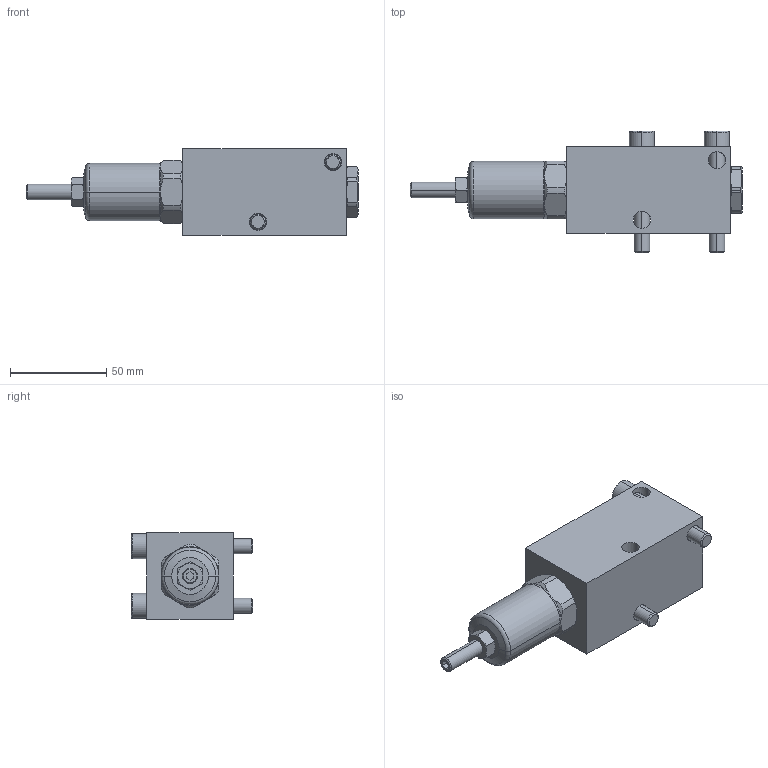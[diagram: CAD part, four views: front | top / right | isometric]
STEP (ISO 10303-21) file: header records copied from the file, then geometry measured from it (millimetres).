
FILE_DESCRIPTION(/* description */ (''),/* implementation_level */ '2;1');
FILE_NAME(/* name */ 'BGM022-A.stp',/* time_stamp */ '2024-10-24T09:27:25+08:00',/* author */ (''),/* organization */ (''),/* preprocessor_version */ 'ST-DEVELOPER v16.7',/* originating_system */ 'SIEMENS PLM Software NX 12.0',/* authorisation */ '');
FILE_SCHEMA (('AP203_CONFIGURATION_CONTROLLED_3D_DESIGN_OF_MECHANICAL_PARTS_AND_ASSEMBLIES_MIM_LF { 1 0 10303 403 2 1 2}'));
Length unit declared in the file: millimetre
Products named in the file (5): BGM022-A-4; BGM022-A-2; BGM022-A-1; BGM022-A-3; BMA20x0-0_rev1_step
Assembly tree (5 placements, depth 2):
  BMA20x0-0_rev1_step
    BGM022-A-3  x2
    BGM022-A-1
    BGM022-A-2
    BGM022-A-4
Bounding box: 172.5 x 63 x 45 mm (x, y, z)
Volume: 205914.3 mm3; surface area: 35975.6 mm2
Topology: 5 solids, 5 shells, 186 faces, 441 edges, 265 vertices
Faces by surface type: plane 69, cone 58, cylinder 47, torus 12
Entity records: 5272 total; most frequent: CARTESIAN_POINT 1048, DIRECTION 769, ORIENTED_EDGE 758, EDGE_CURVE 379, AXIS2_PLACEMENT_3D 309, VERTEX_POINT 232, EDGE_LOOP 177, ADVANCED_FACE 159
